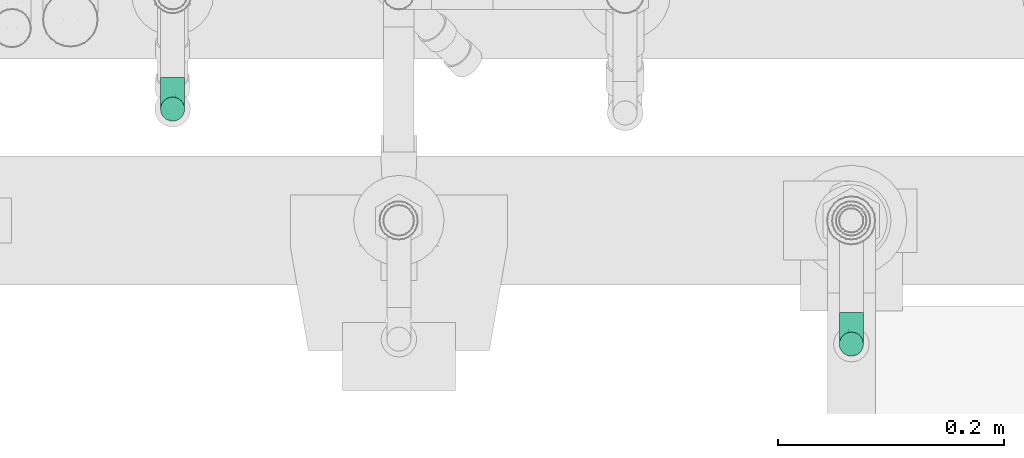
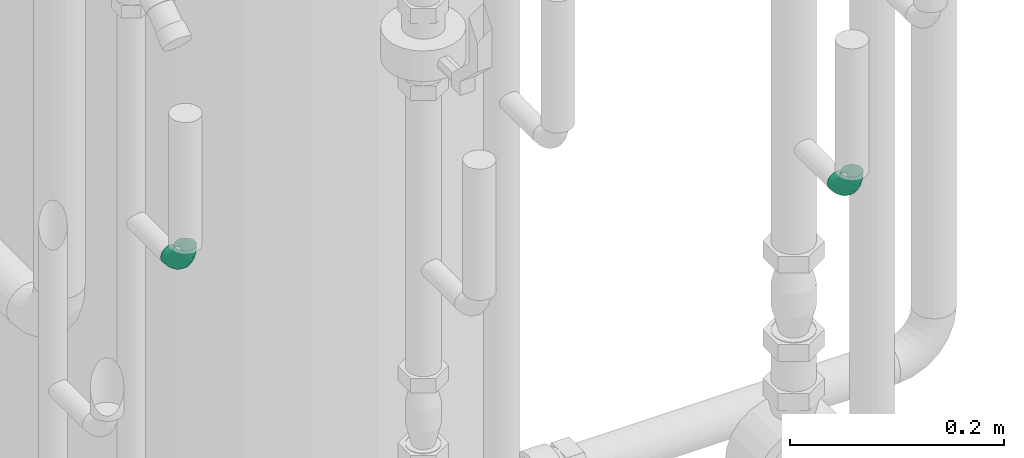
# One storey, part 345 of 374: 2 flow segments.
"""IFC2X3 building model written with IfcOpenShell, lengths in metres."""

from ifc_helpers import new_model, si_unit, direction, origin, place, context, subcontext, project, spatial, open_shell, surface_model, source, transform, mapped, element, save


model = new_model("IFC2X3")

# Units and contexts
model_context = context("Model", 3, precision=1e-05, world=origin(), true_north=direction((-0.4480736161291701, 0.8939966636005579)))
body_context = subcontext(model_context, "Body", "Model", "MODEL_VIEW")
ifc_project = project(units=[si_unit("LENGTHUNIT", "METRE"), si_unit("AREAUNIT", "SQUARE_METRE"), si_unit("VOLUMEUNIT", "CUBIC_METRE"), si_unit("PLANEANGLEUNIT", "RADIAN"), si_unit("THERMODYNAMICTEMPERATUREUNIT", "KELVIN"), si_unit("MASSUNIT", "GRAM", prefix="KILO"), si_unit("TIMEUNIT", "SECOND")], contexts=[model_context])

# Site, building, storey
site_placement = place(None, origin())
site = spatial("IfcSite", under=ifc_project, at=site_placement, Name="Site 1", CompositionType="ELEMENT")
building_placement = place(site_placement, origin())
building = spatial("IfcBuilding", under=site, at=building_placement, Name="Undefined", CompositionType="ELEMENT")
storey_placement = place(building_placement, origin())
storey = spatial("IfcBuildingStorey", under=building, at=storey_placement, Name="Rez de chauss\x8ee", CompositionType="ELEMENT", Elevation=0.0)

# Flow segments
shared_shape_1 = source(origin(), body_context, "Body", "SurfaceModel", [
    surface_model("IfcFaceBasedSurfaceModel", [(0.010089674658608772, 0.0, 1.33226763e-15), (0.010042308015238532, 0.002779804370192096, 1.33226763e-15), (4.73666433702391e-05, 0.0027798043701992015, 4.4408921e-16), (0.0, 0.0, 0.0), (-0.009607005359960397, 0.00311462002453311, -0.0025651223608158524), (-0.00974587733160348, 0.0003379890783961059, -0.0025894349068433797), (-0.01826287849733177, 0.003761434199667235, -0.007520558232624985), (-0.018483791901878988, 0.000990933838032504, -0.007591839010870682), (-0.025330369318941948, 0.004676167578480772, -0.014528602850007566), (-0.025618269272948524, 0.001914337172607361, -0.014666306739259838), (-0.030327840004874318, 0.005796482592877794, -0.023111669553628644), (-0.030663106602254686, 0.003045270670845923, -0.023330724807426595), (-0.03291472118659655, 0.00704603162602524, -0.03268483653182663), (-0.03327450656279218, 0.004306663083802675, -0.0329946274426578), (0.009903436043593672, 0.005463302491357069, -0.000713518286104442), (0.000186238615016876, 0.005463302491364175, -0.0007135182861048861), (-0.009199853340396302, 0.005788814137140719, -0.0032073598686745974), (-0.017615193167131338, 0.006417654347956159, -0.008025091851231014), (-0.02448628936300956, 0.007306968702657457, -0.014838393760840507), (-0.029344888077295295, 0.008396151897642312, -0.023182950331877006), (-0.031859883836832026, 0.009610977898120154, -0.0324900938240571), (0.009682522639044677, 0.007867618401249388, -0.002091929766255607), (0.0004071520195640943, 0.007867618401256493, -0.002091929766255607), (-0.008552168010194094, 0.008178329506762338, -0.004472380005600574), (-0.0165848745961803, 0.008778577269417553, -0.00907105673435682), (-0.023143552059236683, 0.00962745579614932, -0.015574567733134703), (-0.027781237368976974, 0.010667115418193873, -0.023539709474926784), (-0.030181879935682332, 0.011826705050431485, -0.03242367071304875), (0.009394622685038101, 0.009828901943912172, -0.0040412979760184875), (0.000695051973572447, 0.009828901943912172, -0.0040412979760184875), (-0.007708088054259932, 0.010120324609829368, -0.006273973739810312), (-0.015242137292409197, 0.010683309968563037, -0.010587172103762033), (-0.02139366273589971, 0.011479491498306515, -0.01668695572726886), (-0.0257434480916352, 0.012454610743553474, -0.02415763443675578), (-0.027995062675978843, 0.013542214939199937, -0.03249009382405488), (0.00905935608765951, 0.011213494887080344, -0.006428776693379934), (0.0010303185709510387, 0.01121349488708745, -0.006428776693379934), (-0.006725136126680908, 0.011482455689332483, -0.00848936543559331), (-0.0136784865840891, 0.01200204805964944, -0.01247011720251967), (-0.01935587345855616, 0.012736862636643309, -0.018099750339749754), (-0.02337039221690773, 0.013636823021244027, -0.024994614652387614), (-0.02544846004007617, 0.014640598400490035, -0.03268483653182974), (0.008699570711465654, 0.01192703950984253, -0.009091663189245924), (0.001390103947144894, 0.01192703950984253, -0.009091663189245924), (-0.005670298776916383, 0.01217189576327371, -0.010967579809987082), (-0.01200048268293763, 0.012644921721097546, -0.014591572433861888), (-0.017169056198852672, 0.013313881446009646, -0.01971667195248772), (-0.02082378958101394, 0.014133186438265, -0.025993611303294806), (-0.02271561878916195, 0.01504700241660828, -0.032994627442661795), (0.008339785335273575, 0.011920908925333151, -0.011848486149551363), (0.0017498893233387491, 0.011920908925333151, -0.011848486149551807), (-0.0046154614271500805, 0.012141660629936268, -0.013539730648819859), (-0.01032247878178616, 0.012568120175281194, -0.016806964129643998), (-0.014982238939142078, 0.013171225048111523, -0.02142753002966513), (-0.018277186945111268, 0.01390987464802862, -0.027086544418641), (-0.01998277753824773, 0.01473373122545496, -0.033398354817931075), (0.008004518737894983, 0.011195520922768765, -0.01451137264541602), (0.0020851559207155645, 0.011195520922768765, -0.014511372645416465), (-0.003632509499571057, 0.011393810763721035, -0.016030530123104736), (-0.008758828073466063, 0.011776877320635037, -0.018965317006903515), (-0.01294444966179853, 0.012318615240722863, -0.023115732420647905), (-0.01590413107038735, 0.012982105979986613, -0.028198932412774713), (-0.017436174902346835, 0.013722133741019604, -0.03386850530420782), (0.007716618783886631, 0.009800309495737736, -0.016898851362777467), (0.002373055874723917, 0.009800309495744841, -0.016898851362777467), (-0.0027884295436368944, 0.009979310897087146, -0.018270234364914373), (-0.007416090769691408, 0.010325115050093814, -0.020919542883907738), (-0.01119456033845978, 0.010814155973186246, -0.024666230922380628), (-0.013866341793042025, 0.011413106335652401, -0.02925496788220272), (-0.015249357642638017, 0.012081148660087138, -0.03437303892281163), (0.007495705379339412, 0.007830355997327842, -0.018848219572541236), (0.002593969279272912, 0.007830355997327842, -0.018848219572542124), (-0.00214074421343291, 0.00799455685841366, -0.02010621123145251), (-0.006385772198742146, 0.008311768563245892, -0.022536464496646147), (-0.009851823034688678, 0.008760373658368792, -0.025973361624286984), (-0.012302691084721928, 0.00930980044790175, -0.03018268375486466), (-0.013571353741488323, 0.009922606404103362, -0.034877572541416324), (0.007356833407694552, 0.0054199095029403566, -0.020226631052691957), (0.002732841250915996, 0.005419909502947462, -0.0202266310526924), (-0.0017335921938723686, 0.005574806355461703, -0.021413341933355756), (-0.005738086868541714, 0.005874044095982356, -0.023705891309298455), (-0.009007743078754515, 0.006297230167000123, -0.026948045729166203), (-0.011319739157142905, 0.006815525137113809, -0.030918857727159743), (-0.012516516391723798, 0.007393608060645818, -0.03534772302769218), (0.007309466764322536, 0.0027332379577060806, -0.020940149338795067), (0.0027802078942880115, 0.002733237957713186, -0.020940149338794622), (-0.001594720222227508, 0.0028849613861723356, -0.022102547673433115), (-0.0055171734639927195, 0.0031780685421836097, -0.024348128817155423), (-0.008719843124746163, 0.003592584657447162, -0.027523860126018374), (-0.010984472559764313, 0.004100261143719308, -0.03141332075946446), (-0.012156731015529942, 0.004666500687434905, -0.035751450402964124), (0.007356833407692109, -4.656641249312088e-05, -0.020940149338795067), (0.0027328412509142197, -4.656641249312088e-05, -0.02094014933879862), (-0.0017335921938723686, 0.00010833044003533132, -0.022126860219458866), (-0.005738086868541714, 0.00040756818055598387, -0.024419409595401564), (-0.009007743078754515, 0.0008307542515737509, -0.027661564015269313), (-0.011319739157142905, 0.0013490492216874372, -0.03163237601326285), (-0.012516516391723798, 0.0019271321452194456, -0.03606124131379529), (0.007495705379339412, -0.002730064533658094, -0.020226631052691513), (0.002593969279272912, -0.002730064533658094, -0.0202266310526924), (-0.00214074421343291, -0.002565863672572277, -0.021484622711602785), (-0.006385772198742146, -0.002248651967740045, -0.023914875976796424), (-0.009851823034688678, -0.0018000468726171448, -0.02735177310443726), (-0.012302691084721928, -0.0012506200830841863, -0.031561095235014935), (-0.013571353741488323, -0.0006378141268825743, -0.0362559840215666), (0.007716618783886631, -0.005134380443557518, -0.01884821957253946), (0.002373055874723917, -0.0051343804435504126, -0.01884821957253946), (-0.0027884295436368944, -0.004955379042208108, -0.020219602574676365), (-0.007416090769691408, -0.00460957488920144, -0.02286891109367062), (-0.01119456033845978, -0.004120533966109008, -0.026615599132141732), (-0.013866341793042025, -0.0035215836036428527, -0.031204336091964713), (-0.015249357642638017, -0.002853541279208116, -0.03632240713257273), (0.008004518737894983, -0.007095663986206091, -0.01689885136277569), (0.0020851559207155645, -0.007095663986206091, -0.016898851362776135), (-0.003632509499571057, -0.006897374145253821, -0.018418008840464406), (-0.008758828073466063, -0.006514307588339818, -0.021352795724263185), (-0.01294444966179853, -0.005972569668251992, -0.025503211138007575), (-0.01590413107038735, -0.005309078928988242, -0.030586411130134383), (-0.017436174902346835, -0.0045690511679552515, -0.03625598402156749), (0.008339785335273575, -0.008480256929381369, -0.014511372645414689), (0.0017498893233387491, -0.008480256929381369, -0.014511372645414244), (-0.0046154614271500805, -0.008259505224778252, -0.016202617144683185), (-0.01032247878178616, -0.007833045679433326, -0.019469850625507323), (-0.014982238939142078, -0.007229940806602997, -0.024090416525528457), (-0.018277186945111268, -0.006491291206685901, -0.029749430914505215), (-0.01998277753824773, -0.00566743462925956, -0.0360612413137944), (0.008699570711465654, -0.009193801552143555, -0.011848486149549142), (0.001390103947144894, -0.009193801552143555, -0.011848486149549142), (-0.005670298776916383, -0.008948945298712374, -0.013724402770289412), (-0.01200048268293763, -0.008475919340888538, -0.017348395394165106), (-0.017169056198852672, -0.007806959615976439, -0.022473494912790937), (-0.02082378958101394, -0.006987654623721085, -0.028750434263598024), (-0.02271561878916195, -0.006073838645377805, -0.035751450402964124), (0.00905935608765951, -0.009187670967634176, -0.00909166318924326), (0.0010303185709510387, -0.00918767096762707, -0.00909166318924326), (-0.006725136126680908, -0.008918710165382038, -0.011152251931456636), (-0.0136784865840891, -0.00839911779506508, -0.015133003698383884), (-0.01935587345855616, -0.007664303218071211, -0.02076263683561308), (-0.02337039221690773, -0.006764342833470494, -0.02765750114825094), (-0.02544846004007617, -0.005760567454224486, -0.03534772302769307), (0.009394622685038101, -0.008462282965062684, -0.006428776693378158), (0.000695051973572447, -0.008462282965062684, -0.006428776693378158), (-0.007708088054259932, -0.008170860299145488, -0.008661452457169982), (-0.015242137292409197, -0.0076078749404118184, -0.012974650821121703), (-0.02139366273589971, -0.00681169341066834, -0.01907443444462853), (-0.0257434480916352, -0.005836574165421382, -0.02654511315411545), (-0.027995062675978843, -0.004748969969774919, -0.03487757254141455), (0.009682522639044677, -0.007067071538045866, -0.004041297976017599), (0.0004071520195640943, -0.0070670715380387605, -0.004041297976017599), (-0.008552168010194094, -0.006756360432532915, -0.006421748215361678), (-0.0165848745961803, -0.0061561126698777, -0.011020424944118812), (-0.023143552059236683, -0.0053072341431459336, -0.017523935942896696), (-0.027781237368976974, -0.0042675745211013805, -0.02548907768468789), (-0.030181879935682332, -0.0031079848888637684, -0.03437303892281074), (0.009903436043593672, -0.005097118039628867, -0.0020919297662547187), (0.000186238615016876, -0.005097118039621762, -0.002091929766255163), (-0.009199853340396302, -0.004771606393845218, -0.004585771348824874), (-0.017615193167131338, -0.004142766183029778, -0.009403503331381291), (-0.02448628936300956, -0.0032534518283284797, -0.016216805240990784), (-0.029344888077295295, -0.0021642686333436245, -0.024561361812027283), (-0.031859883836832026, -0.0009494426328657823, -0.033868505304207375), (0.010042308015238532, -0.002686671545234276, -0.0007135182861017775), (4.73666433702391e-05, -0.0026866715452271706, -0.0007135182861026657), (-0.009607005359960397, -0.002351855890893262, -0.003278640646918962), (-0.01826287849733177, -0.0017050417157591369, -0.008234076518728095), (-0.025330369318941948, -0.0007903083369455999, -0.015242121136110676), (-0.030327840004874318, 0.0003300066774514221, -0.023825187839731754), (-0.03291472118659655, 0.0015795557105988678, -0.03339835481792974)], [open_shell([[[0, 1, 2, 3]], [[3, 2, 4, 5]], [[5, 4, 6, 7]], [[7, 6, 8, 9]], [[9, 8, 10, 11]], [[11, 10, 12, 13]], [[1, 14, 15, 2]], [[2, 15, 16, 4]], [[4, 16, 17, 6]], [[6, 17, 18, 8]], [[8, 18, 19, 10]], [[10, 19, 20, 12]], [[14, 21, 22, 15]], [[15, 22, 23, 16]], [[16, 23, 24, 17]], [[17, 24, 25, 18]], [[18, 25, 26, 19]], [[19, 26, 27, 20]], [[21, 28, 29, 22]], [[22, 29, 30, 23]], [[23, 30, 31, 24]], [[24, 31, 32, 25]], [[25, 32, 33, 26]], [[26, 33, 34, 27]], [[28, 35, 36, 29]], [[29, 36, 37, 30]], [[30, 37, 38, 31]], [[31, 38, 39, 32]], [[32, 39, 40, 33]], [[33, 40, 41, 34]], [[35, 42, 43, 36]], [[36, 43, 44, 37]], [[37, 44, 45, 38]], [[38, 45, 46, 39]], [[39, 46, 47, 40]], [[40, 47, 48, 41]], [[42, 49, 50, 43]], [[43, 50, 51, 44]], [[44, 51, 52, 45]], [[45, 52, 53, 46]], [[46, 53, 54, 47]], [[47, 54, 55, 48]], [[49, 56, 57, 50]], [[50, 57, 58, 51]], [[51, 58, 59, 52]], [[52, 59, 60, 53]], [[53, 60, 61, 54]], [[54, 61, 62, 55]], [[56, 63, 64, 57]], [[57, 64, 65, 58]], [[58, 65, 66, 59]], [[59, 66, 67, 60]], [[60, 67, 68, 61]], [[61, 68, 69, 62]], [[63, 70, 71, 64]], [[64, 71, 72, 65]], [[65, 72, 73, 66]], [[66, 73, 74, 67]], [[67, 74, 75, 68]], [[68, 75, 76, 69]], [[70, 77, 78, 71]], [[71, 78, 79, 72]], [[72, 79, 80, 73]], [[73, 80, 81, 74]], [[74, 81, 82, 75]], [[75, 82, 83, 76]], [[77, 84, 85, 78]], [[78, 85, 86, 79]], [[79, 86, 87, 80]], [[80, 87, 88, 81]], [[81, 88, 89, 82]], [[82, 89, 90, 83]], [[84, 91, 92, 85]], [[85, 92, 93, 86]], [[86, 93, 94, 87]], [[87, 94, 95, 88]], [[88, 95, 96, 89]], [[89, 96, 97, 90]], [[91, 98, 99, 92]], [[92, 99, 100, 93]], [[93, 100, 101, 94]], [[94, 101, 102, 95]], [[95, 102, 103, 96]], [[96, 103, 104, 97]], [[98, 105, 106, 99]], [[99, 106, 107, 100]], [[100, 107, 108, 101]], [[101, 108, 109, 102]], [[102, 109, 110, 103]], [[103, 110, 111, 104]], [[105, 112, 113, 106]], [[106, 113, 114, 107]], [[107, 114, 115, 108]], [[108, 115, 116, 109]], [[109, 116, 117, 110]], [[110, 117, 118, 111]], [[112, 119, 120, 113]], [[113, 120, 121, 114]], [[114, 121, 122, 115]], [[115, 122, 123, 116]], [[116, 123, 124, 117]], [[117, 124, 125, 118]], [[119, 126, 127, 120]], [[120, 127, 128, 121]], [[121, 128, 129, 122]], [[122, 129, 130, 123]], [[123, 130, 131, 124]], [[124, 131, 132, 125]], [[126, 133, 134, 127]], [[127, 134, 135, 128]], [[128, 135, 136, 129]], [[129, 136, 137, 130]], [[130, 137, 138, 131]], [[131, 138, 139, 132]], [[133, 140, 141, 134]], [[134, 141, 142, 135]], [[135, 142, 143, 136]], [[136, 143, 144, 137]], [[137, 144, 145, 138]], [[138, 145, 146, 139]], [[140, 147, 148, 141]], [[141, 148, 149, 142]], [[142, 149, 150, 143]], [[143, 150, 151, 144]], [[144, 151, 152, 145]], [[145, 152, 153, 146]], [[147, 154, 155, 148]], [[148, 155, 156, 149]], [[149, 156, 157, 150]], [[150, 157, 158, 151]], [[151, 158, 159, 152]], [[152, 159, 160, 153]], [[154, 161, 162, 155]], [[155, 162, 163, 156]], [[156, 163, 164, 157]], [[157, 164, 165, 158]], [[158, 165, 166, 159]], [[159, 166, 167, 160]], [[161, 0, 3, 162]], [[162, 3, 5, 163]], [[163, 5, 7, 164]], [[164, 7, 9, 165]], [[165, 9, 11, 166]], [[166, 11, 13, 167]]])]),
])
flow_segment_1_placement = place(storey_placement, origin())
element("IfcFlowSegment", 1, at=flow_segment_1_placement, inside=storey, Name="Tube coudé", ObjectType="Tube coudé", context=body_context, shape_type="MappedRepresentation", body=[
    mapped(shared_shape_1, transform((53.05756201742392, 10.807254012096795, 1.48321640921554), x_axis=(0.0, -0.1305261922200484, 0.9914448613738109), y_axis=(-0.9915887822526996, 0.12832103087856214, 0.016893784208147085), z_axis=(-0.1294283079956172, -0.9831056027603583, -0.12942830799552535))),
])
shared_shape_2 = source(origin(), body_context, "Body", "SurfaceModel", [
    surface_model("IfcFaceBasedSurfaceModel", [(0.010089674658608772, 0.0, 1.33226763e-15), (0.010042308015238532, 0.002779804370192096, 1.33226763e-15), (4.73666433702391e-05, 0.0027798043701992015, 4.4408921e-16), (0.0, 0.0, 0.0), (-0.009607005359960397, 0.00311462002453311, -0.0025651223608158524), (-0.00974587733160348, 0.0003379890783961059, -0.0025894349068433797), (-0.01826287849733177, 0.003761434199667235, -0.007520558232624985), (-0.018483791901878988, 0.000990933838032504, -0.007591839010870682), (-0.025330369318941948, 0.004676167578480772, -0.014528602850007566), (-0.025618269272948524, 0.001914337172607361, -0.014666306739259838), (-0.030327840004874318, 0.005796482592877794, -0.023111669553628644), (-0.030663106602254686, 0.003045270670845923, -0.023330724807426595), (-0.03291472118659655, 0.00704603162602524, -0.03268483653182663), (-0.03327450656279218, 0.004306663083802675, -0.0329946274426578), (0.009903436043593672, 0.005463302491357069, -0.000713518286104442), (0.000186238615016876, 0.005463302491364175, -0.0007135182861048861), (-0.009199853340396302, 0.005788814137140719, -0.0032073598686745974), (-0.017615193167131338, 0.006417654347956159, -0.008025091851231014), (-0.02448628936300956, 0.007306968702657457, -0.014838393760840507), (-0.029344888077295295, 0.008396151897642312, -0.023182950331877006), (-0.031859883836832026, 0.009610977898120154, -0.0324900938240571), (0.009682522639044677, 0.007867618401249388, -0.002091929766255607), (0.0004071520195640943, 0.007867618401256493, -0.002091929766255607), (-0.008552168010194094, 0.008178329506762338, -0.004472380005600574), (-0.0165848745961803, 0.008778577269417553, -0.00907105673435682), (-0.023143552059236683, 0.00962745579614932, -0.015574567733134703), (-0.027781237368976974, 0.010667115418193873, -0.023539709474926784), (-0.030181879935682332, 0.011826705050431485, -0.03242367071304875), (0.009394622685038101, 0.009828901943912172, -0.0040412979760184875), (0.000695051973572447, 0.009828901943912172, -0.0040412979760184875), (-0.007708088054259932, 0.010120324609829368, -0.006273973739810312), (-0.015242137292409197, 0.010683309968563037, -0.010587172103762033), (-0.02139366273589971, 0.011479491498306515, -0.01668695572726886), (-0.0257434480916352, 0.012454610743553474, -0.02415763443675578), (-0.027995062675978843, 0.013542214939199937, -0.03249009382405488), (0.00905935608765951, 0.011213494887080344, -0.006428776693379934), (0.0010303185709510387, 0.01121349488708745, -0.006428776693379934), (-0.006725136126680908, 0.011482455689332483, -0.00848936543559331), (-0.0136784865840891, 0.01200204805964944, -0.01247011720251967), (-0.01935587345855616, 0.012736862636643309, -0.018099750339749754), (-0.02337039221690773, 0.013636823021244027, -0.024994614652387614), (-0.02544846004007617, 0.014640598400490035, -0.03268483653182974), (0.008699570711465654, 0.01192703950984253, -0.009091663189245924), (0.001390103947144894, 0.01192703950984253, -0.009091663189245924), (-0.005670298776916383, 0.01217189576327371, -0.010967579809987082), (-0.01200048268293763, 0.012644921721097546, -0.014591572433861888), (-0.017169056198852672, 0.013313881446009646, -0.01971667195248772), (-0.02082378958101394, 0.014133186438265, -0.025993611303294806), (-0.02271561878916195, 0.01504700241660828, -0.032994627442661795), (0.008339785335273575, 0.011920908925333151, -0.011848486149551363), (0.0017498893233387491, 0.011920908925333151, -0.011848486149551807), (-0.0046154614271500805, 0.012141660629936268, -0.013539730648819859), (-0.01032247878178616, 0.012568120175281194, -0.016806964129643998), (-0.014982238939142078, 0.013171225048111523, -0.02142753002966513), (-0.018277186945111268, 0.01390987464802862, -0.027086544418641), (-0.01998277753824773, 0.01473373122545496, -0.033398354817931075), (0.008004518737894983, 0.011195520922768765, -0.01451137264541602), (0.0020851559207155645, 0.011195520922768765, -0.014511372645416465), (-0.003632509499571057, 0.011393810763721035, -0.016030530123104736), (-0.008758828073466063, 0.011776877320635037, -0.018965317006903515), (-0.01294444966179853, 0.012318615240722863, -0.023115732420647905), (-0.01590413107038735, 0.012982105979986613, -0.028198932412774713), (-0.017436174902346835, 0.013722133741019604, -0.03386850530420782), (0.007716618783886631, 0.009800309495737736, -0.016898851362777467), (0.002373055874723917, 0.009800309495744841, -0.016898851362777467), (-0.0027884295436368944, 0.009979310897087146, -0.018270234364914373), (-0.007416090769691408, 0.010325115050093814, -0.020919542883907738), (-0.01119456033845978, 0.010814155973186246, -0.024666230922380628), (-0.013866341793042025, 0.011413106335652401, -0.02925496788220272), (-0.015249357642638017, 0.012081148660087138, -0.03437303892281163), (0.007495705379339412, 0.007830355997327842, -0.018848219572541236), (0.002593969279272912, 0.007830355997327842, -0.018848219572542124), (-0.00214074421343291, 0.00799455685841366, -0.02010621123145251), (-0.006385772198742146, 0.008311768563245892, -0.022536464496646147), (-0.009851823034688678, 0.008760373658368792, -0.025973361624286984), (-0.012302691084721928, 0.00930980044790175, -0.03018268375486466), (-0.013571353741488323, 0.009922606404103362, -0.034877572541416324), (0.007356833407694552, 0.0054199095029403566, -0.020226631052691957), (0.002732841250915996, 0.005419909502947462, -0.0202266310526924), (-0.0017335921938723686, 0.005574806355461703, -0.021413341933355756), (-0.005738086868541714, 0.005874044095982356, -0.023705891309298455), (-0.009007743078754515, 0.006297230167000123, -0.026948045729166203), (-0.011319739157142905, 0.006815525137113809, -0.030918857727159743), (-0.012516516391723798, 0.007393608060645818, -0.03534772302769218), (0.007309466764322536, 0.0027332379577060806, -0.020940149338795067), (0.0027802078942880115, 0.002733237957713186, -0.020940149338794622), (-0.001594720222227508, 0.0028849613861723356, -0.022102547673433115), (-0.0055171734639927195, 0.0031780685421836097, -0.024348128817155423), (-0.008719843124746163, 0.003592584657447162, -0.027523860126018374), (-0.010984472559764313, 0.004100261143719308, -0.03141332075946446), (-0.012156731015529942, 0.004666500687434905, -0.035751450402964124), (0.007356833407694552, -4.656641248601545e-05, -0.020940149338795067), (0.0027328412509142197, -4.656641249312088e-05, -0.02094014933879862), (-0.0017335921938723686, 0.00010833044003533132, -0.022126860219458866), (-0.005738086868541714, 0.00040756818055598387, -0.024419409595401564), (-0.009007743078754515, 0.0008307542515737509, -0.027661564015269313), (-0.011319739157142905, 0.0013490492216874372, -0.03163237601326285), (-0.012516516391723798, 0.0019271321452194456, -0.03606124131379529), (0.007495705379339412, -0.002730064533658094, -0.020226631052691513), (0.002593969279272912, -0.002730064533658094, -0.0202266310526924), (-0.00214074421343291, -0.002565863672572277, -0.021484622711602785), (-0.006385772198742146, -0.002248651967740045, -0.023914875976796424), (-0.009851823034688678, -0.0018000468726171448, -0.02735177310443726), (-0.012302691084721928, -0.0012506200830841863, -0.031561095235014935), (-0.013571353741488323, -0.0006378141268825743, -0.0362559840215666), (0.007716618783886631, -0.005134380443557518, -0.01884821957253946), (0.002373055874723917, -0.0051343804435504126, -0.01884821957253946), (-0.0027884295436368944, -0.004955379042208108, -0.020219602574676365), (-0.007416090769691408, -0.00460957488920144, -0.02286891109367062), (-0.01119456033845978, -0.004120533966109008, -0.026615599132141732), (-0.013866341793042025, -0.0035215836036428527, -0.031204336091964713), (-0.015249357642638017, -0.002853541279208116, -0.03632240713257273), (0.008004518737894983, -0.007095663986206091, -0.01689885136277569), (0.0020851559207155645, -0.007095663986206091, -0.016898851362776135), (-0.003632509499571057, -0.006897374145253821, -0.018418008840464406), (-0.008758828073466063, -0.006514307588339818, -0.021352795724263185), (-0.01294444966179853, -0.005972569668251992, -0.025503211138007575), (-0.01590413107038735, -0.005309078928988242, -0.030586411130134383), (-0.017436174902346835, -0.0045690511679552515, -0.03625598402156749), (0.008339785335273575, -0.008480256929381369, -0.014511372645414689), (0.0017498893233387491, -0.008480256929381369, -0.014511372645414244), (-0.0046154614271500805, -0.008259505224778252, -0.016202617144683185), (-0.01032247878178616, -0.007833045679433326, -0.019469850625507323), (-0.014982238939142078, -0.007229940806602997, -0.024090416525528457), (-0.018277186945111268, -0.006491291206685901, -0.029749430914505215), (-0.01998277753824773, -0.00566743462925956, -0.0360612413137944), (0.008699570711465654, -0.009193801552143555, -0.011848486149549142), (0.001390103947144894, -0.009193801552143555, -0.011848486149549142), (-0.005670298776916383, -0.008948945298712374, -0.013724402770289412), (-0.01200048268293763, -0.008475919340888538, -0.017348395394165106), (-0.017169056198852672, -0.007806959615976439, -0.022473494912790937), (-0.02082378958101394, -0.006987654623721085, -0.028750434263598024), (-0.02271561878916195, -0.006073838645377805, -0.035751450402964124), (0.00905935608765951, -0.009187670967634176, -0.00909166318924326), (0.0010303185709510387, -0.00918767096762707, -0.00909166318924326), (-0.006725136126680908, -0.008918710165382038, -0.011152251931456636), (-0.0136784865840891, -0.00839911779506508, -0.015133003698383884), (-0.01935587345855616, -0.007664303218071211, -0.02076263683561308), (-0.02337039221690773, -0.006764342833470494, -0.02765750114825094), (-0.02544846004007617, -0.005760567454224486, -0.03534772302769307), (0.009394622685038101, -0.008462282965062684, -0.006428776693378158), (0.000695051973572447, -0.008462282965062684, -0.006428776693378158), (-0.007708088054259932, -0.008170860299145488, -0.008661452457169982), (-0.015242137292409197, -0.0076078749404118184, -0.012974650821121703), (-0.02139366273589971, -0.00681169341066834, -0.01907443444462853), (-0.0257434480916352, -0.005836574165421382, -0.02654511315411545), (-0.027995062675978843, -0.004748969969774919, -0.03487757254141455), (0.009682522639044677, -0.007067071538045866, -0.004041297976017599), (0.0004071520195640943, -0.0070670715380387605, -0.004041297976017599), (-0.008552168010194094, -0.006756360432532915, -0.006421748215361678), (-0.0165848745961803, -0.0061561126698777, -0.011020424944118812), (-0.023143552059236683, -0.0053072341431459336, -0.017523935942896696), (-0.027781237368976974, -0.0042675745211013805, -0.02548907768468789), (-0.030181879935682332, -0.0031079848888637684, -0.03437303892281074), (0.009903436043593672, -0.005097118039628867, -0.0020919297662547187), (0.000186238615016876, -0.005097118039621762, -0.002091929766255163), (-0.009199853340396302, -0.004771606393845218, -0.004585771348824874), (-0.017615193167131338, -0.004142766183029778, -0.009403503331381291), (-0.02448628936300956, -0.0032534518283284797, -0.016216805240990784), (-0.029344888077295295, -0.0021642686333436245, -0.024561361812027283), (-0.031859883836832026, -0.0009494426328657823, -0.033868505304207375), (0.010042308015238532, -0.002686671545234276, -0.0007135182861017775), (4.73666433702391e-05, -0.0026866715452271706, -0.0007135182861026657), (-0.009607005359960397, -0.002351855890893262, -0.003278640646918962), (-0.01826287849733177, -0.0017050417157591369, -0.008234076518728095), (-0.025330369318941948, -0.0007903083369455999, -0.015242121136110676), (-0.030327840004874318, 0.0003300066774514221, -0.023825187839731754), (-0.03291472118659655, 0.0015795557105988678, -0.03339835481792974)], [open_shell([[[0, 1, 2, 3]], [[3, 2, 4, 5]], [[5, 4, 6, 7]], [[7, 6, 8, 9]], [[9, 8, 10, 11]], [[11, 10, 12, 13]], [[1, 14, 15, 2]], [[2, 15, 16, 4]], [[4, 16, 17, 6]], [[6, 17, 18, 8]], [[8, 18, 19, 10]], [[10, 19, 20, 12]], [[14, 21, 22, 15]], [[15, 22, 23, 16]], [[16, 23, 24, 17]], [[17, 24, 25, 18]], [[18, 25, 26, 19]], [[19, 26, 27, 20]], [[21, 28, 29, 22]], [[22, 29, 30, 23]], [[23, 30, 31, 24]], [[24, 31, 32, 25]], [[25, 32, 33, 26]], [[26, 33, 34, 27]], [[28, 35, 36, 29]], [[29, 36, 37, 30]], [[30, 37, 38, 31]], [[31, 38, 39, 32]], [[32, 39, 40, 33]], [[33, 40, 41, 34]], [[35, 42, 43, 36]], [[36, 43, 44, 37]], [[37, 44, 45, 38]], [[38, 45, 46, 39]], [[39, 46, 47, 40]], [[40, 47, 48, 41]], [[42, 49, 50, 43]], [[43, 50, 51, 44]], [[44, 51, 52, 45]], [[45, 52, 53, 46]], [[46, 53, 54, 47]], [[47, 54, 55, 48]], [[49, 56, 57, 50]], [[50, 57, 58, 51]], [[51, 58, 59, 52]], [[52, 59, 60, 53]], [[53, 60, 61, 54]], [[54, 61, 62, 55]], [[56, 63, 64, 57]], [[57, 64, 65, 58]], [[58, 65, 66, 59]], [[59, 66, 67, 60]], [[60, 67, 68, 61]], [[61, 68, 69, 62]], [[63, 70, 71, 64]], [[64, 71, 72, 65]], [[65, 72, 73, 66]], [[66, 73, 74, 67]], [[67, 74, 75, 68]], [[68, 75, 76, 69]], [[70, 77, 78, 71]], [[71, 78, 79, 72]], [[72, 79, 80, 73]], [[73, 80, 81, 74]], [[74, 81, 82, 75]], [[75, 82, 83, 76]], [[77, 84, 85, 78]], [[78, 85, 86, 79]], [[79, 86, 87, 80]], [[80, 87, 88, 81]], [[81, 88, 89, 82]], [[82, 89, 90, 83]], [[84, 91, 92, 85]], [[85, 92, 93, 86]], [[86, 93, 94, 87]], [[87, 94, 95, 88]], [[88, 95, 96, 89]], [[89, 96, 97, 90]], [[91, 98, 99, 92]], [[92, 99, 100, 93]], [[93, 100, 101, 94]], [[94, 101, 102, 95]], [[95, 102, 103, 96]], [[96, 103, 104, 97]], [[98, 105, 106, 99]], [[99, 106, 107, 100]], [[100, 107, 108, 101]], [[101, 108, 109, 102]], [[102, 109, 110, 103]], [[103, 110, 111, 104]], [[105, 112, 113, 106]], [[106, 113, 114, 107]], [[107, 114, 115, 108]], [[108, 115, 116, 109]], [[109, 116, 117, 110]], [[110, 117, 118, 111]], [[112, 119, 120, 113]], [[113, 120, 121, 114]], [[114, 121, 122, 115]], [[115, 122, 123, 116]], [[116, 123, 124, 117]], [[117, 124, 125, 118]], [[119, 126, 127, 120]], [[120, 127, 128, 121]], [[121, 128, 129, 122]], [[122, 129, 130, 123]], [[123, 130, 131, 124]], [[124, 131, 132, 125]], [[126, 133, 134, 127]], [[127, 134, 135, 128]], [[128, 135, 136, 129]], [[129, 136, 137, 130]], [[130, 137, 138, 131]], [[131, 138, 139, 132]], [[133, 140, 141, 134]], [[134, 141, 142, 135]], [[135, 142, 143, 136]], [[136, 143, 144, 137]], [[137, 144, 145, 138]], [[138, 145, 146, 139]], [[140, 147, 148, 141]], [[141, 148, 149, 142]], [[142, 149, 150, 143]], [[143, 150, 151, 144]], [[144, 151, 152, 145]], [[145, 152, 153, 146]], [[147, 154, 155, 148]], [[148, 155, 156, 149]], [[149, 156, 157, 150]], [[150, 157, 158, 151]], [[151, 158, 159, 152]], [[152, 159, 160, 153]], [[154, 161, 162, 155]], [[155, 162, 163, 156]], [[156, 163, 164, 157]], [[157, 164, 165, 158]], [[158, 165, 166, 159]], [[159, 166, 167, 160]], [[161, 0, 3, 162]], [[162, 3, 5, 163]], [[163, 5, 7, 164]], [[164, 7, 9, 165]], [[165, 9, 11, 166]], [[166, 11, 13, 167]]])]),
])
flow_segment_2_placement = place(storey_placement, origin())
element("IfcFlowSegment", 2, at=flow_segment_2_placement, inside=storey, Name="Tube coudé", ObjectType="Tube coudé", context=body_context, shape_type="MappedRepresentation", body=[
    mapped(shared_shape_2, transform((53.657562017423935, 10.626833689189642, 1.4558867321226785), x_axis=(0.0, 0.9914448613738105, -0.13052619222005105), y_axis=(0.9915887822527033, 0.016893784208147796, 0.12832103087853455), z_axis=(0.1294283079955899, -0.12942830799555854, -0.9831056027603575))),
])

save(model, "model.ifc")
